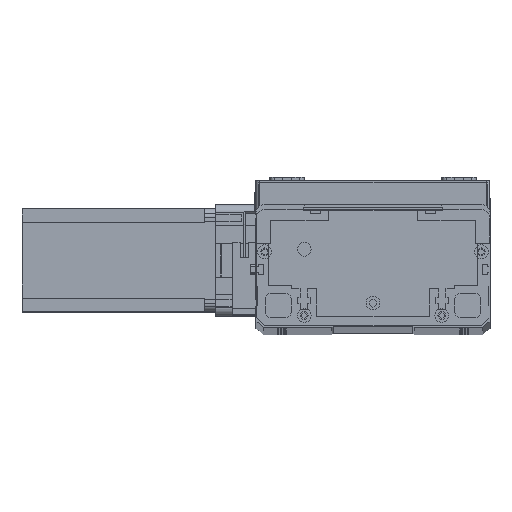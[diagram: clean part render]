
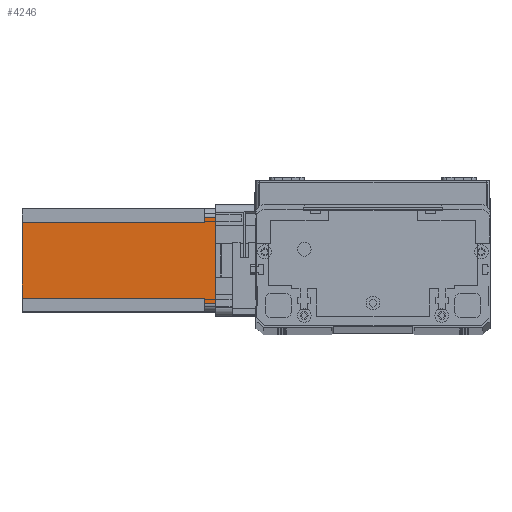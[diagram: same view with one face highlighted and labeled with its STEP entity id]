
A CAD part, top view. The second image highlights one B-rep face of the part: STEP entity #4246.
In plain terms, the highlighted planar face has unit normal (0, 0, 1) as drawn and (0, -1, 0) by its records, which use the part's own axes.
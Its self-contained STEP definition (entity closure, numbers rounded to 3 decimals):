
#725 = VERTEX_POINT ( 'NONE', #17973 ) ;
#1422 = CARTESIAN_POINT ( 'NONE',  ( 8., 0., -112.5 ) ) ;
#2150 = CARTESIAN_POINT ( 'NONE',  ( 52., 0., -6.5 ) ) ;
#2265 = VECTOR ( 'NONE', #15494, 1000. ) ;
#2928 = LINE ( 'NONE', #21716, #2265 ) ;
#3592 = LINE ( 'NONE', #19464, #9351 ) ;
#3882 = ORIENTED_EDGE ( 'NONE', *, *, #20355, .F. ) ;
#4073 = VECTOR ( 'NONE', #11373, 1000. ) ;
#4246 = ADVANCED_FACE ( 'NONE', ( #16767 ), #5122, .T. ) ;
#4291 = DIRECTION ( 'NONE',  ( 1., 0., 0. ) ) ;
#4448 = DIRECTION ( 'NONE',  ( 0., 0., -1. ) ) ;
#4628 = DIRECTION ( 'NONE',  ( 0., -1., 0. ) ) ;
#4683 = DIRECTION ( 'NONE',  ( 0., 0., 1. ) ) ;
#5122 = PLANE ( 'NONE',  #24348 ) ;
#5148 = DIRECTION ( 'NONE',  ( 0., 0., -1. ) ) ;
#5617 = LINE ( 'NONE', #19199, #17545 ) ;
#6547 = DIRECTION ( 'NONE',  ( -1., 0., 0. ) ) ;
#6600 = LINE ( 'NONE', #19816, #22655 ) ;
#7066 = VERTEX_POINT ( 'NONE', #19154 ) ;
#7197 = VERTEX_POINT ( 'NONE', #16872 ) ;
#7496 = VERTEX_POINT ( 'NONE', #11884 ) ;
#8347 = ORIENTED_EDGE ( 'NONE', *, *, #17374, .T. ) ;
#8471 = ORIENTED_EDGE ( 'NONE', *, *, #20475, .F. ) ;
#8507 = CARTESIAN_POINT ( 'NONE',  ( 0., 0., -112.5 ) ) ;
#9351 = VECTOR ( 'NONE', #4683, 1000. ) ;
#9522 = LINE ( 'NONE', #2150, #25351 ) ;
#10649 = VECTOR ( 'NONE', #10961, 1000. ) ;
#10919 = ORIENTED_EDGE ( 'NONE', *, *, #17564, .T. ) ;
#10961 = DIRECTION ( 'NONE',  ( 1., 0., 0. ) ) ;
#11317 = LINE ( 'NONE', #25344, #10649 ) ;
#11373 = DIRECTION ( 'NONE',  ( 0., 0., 1. ) ) ;
#11523 = LINE ( 'NONE', #20267, #16390 ) ;
#11884 = CARTESIAN_POINT ( 'NONE',  ( 5., 0., 0. ) ) ;
#12027 = EDGE_LOOP ( 'NONE', ( #8347, #10919, #18708, #12903, #3882, #8471, #12154, #24029 ) ) ;
#12154 = ORIENTED_EDGE ( 'NONE', *, *, #20516, .T. ) ;
#12508 = EDGE_CURVE ( 'NONE', #7496, #7066, #11317, .T. ) ;
#12903 = ORIENTED_EDGE ( 'NONE', *, *, #17769, .T. ) ;
#14157 = CARTESIAN_POINT ( 'NONE',  ( 52., 0., -112.5 ) ) ;
#14769 = CARTESIAN_POINT ( 'NONE',  ( 8., 0., -6.5 ) ) ;
#15494 = DIRECTION ( 'NONE',  ( 1., 0., 0. ) ) ;
#16105 = DIRECTION ( 'NONE',  ( 0., 0., -1. ) ) ;
#16390 = VECTOR ( 'NONE', #16105, 1000. ) ;
#16767 = FACE_OUTER_BOUND ( 'NONE', #12027, .T. ) ;
#16872 = CARTESIAN_POINT ( 'NONE',  ( 55., 0., -6.5 ) ) ;
#17374 = EDGE_CURVE ( 'NONE', #18833, #7197, #9522, .T. ) ;
#17545 = VECTOR ( 'NONE', #6547, 1000. ) ;
#17564 = EDGE_CURVE ( 'NONE', #7197, #7066, #20940, .T. ) ;
#17769 = EDGE_CURVE ( 'NONE', #7496, #725, #11523, .T. ) ;
#17973 = CARTESIAN_POINT ( 'NONE',  ( 5., 0., -6.5 ) ) ;
#18708 = ORIENTED_EDGE ( 'NONE', *, *, #12508, .F. ) ;
#18833 = VERTEX_POINT ( 'NONE', #24243 ) ;
#19154 = CARTESIAN_POINT ( 'NONE',  ( 55., 0., 0. ) ) ;
#19199 = CARTESIAN_POINT ( 'NONE',  ( 8., 0., -6.5 ) ) ;
#19464 = CARTESIAN_POINT ( 'NONE',  ( 8., 0., -112.5 ) ) ;
#19622 = CARTESIAN_POINT ( 'NONE',  ( 55., 0., -112.5 ) ) ;
#19816 = CARTESIAN_POINT ( 'NONE',  ( 52., 0., -112.5 ) ) ;
#20089 = VERTEX_POINT ( 'NONE', #14157 ) ;
#20130 = VERTEX_POINT ( 'NONE', #1422 ) ;
#20267 = CARTESIAN_POINT ( 'NONE',  ( 5., 0., -112.5 ) ) ;
#20355 = EDGE_CURVE ( 'NONE', #20902, #725, #5617, .T. ) ;
#20475 = EDGE_CURVE ( 'NONE', #20130, #20902, #3592, .T. ) ;
#20516 = EDGE_CURVE ( 'NONE', #20130, #20089, #2928, .T. ) ;
#20609 = EDGE_CURVE ( 'NONE', #18833, #20089, #6600, .T. ) ;
#20902 = VERTEX_POINT ( 'NONE', #14769 ) ;
#20940 = LINE ( 'NONE', #19622, #4073 ) ;
#21716 = CARTESIAN_POINT ( 'NONE',  ( 0., 0., -112.5 ) ) ;
#22655 = VECTOR ( 'NONE', #5148, 1000. ) ;
#24029 = ORIENTED_EDGE ( 'NONE', *, *, #20609, .F. ) ;
#24243 = CARTESIAN_POINT ( 'NONE',  ( 52., 0., -6.5 ) ) ;
#24348 = AXIS2_PLACEMENT_3D ( 'NONE', #8507, #4628, #4448 ) ;
#25344 = CARTESIAN_POINT ( 'NONE',  ( 0., 0., 0. ) ) ;
#25351 = VECTOR ( 'NONE', #4291, 1000. ) ;
